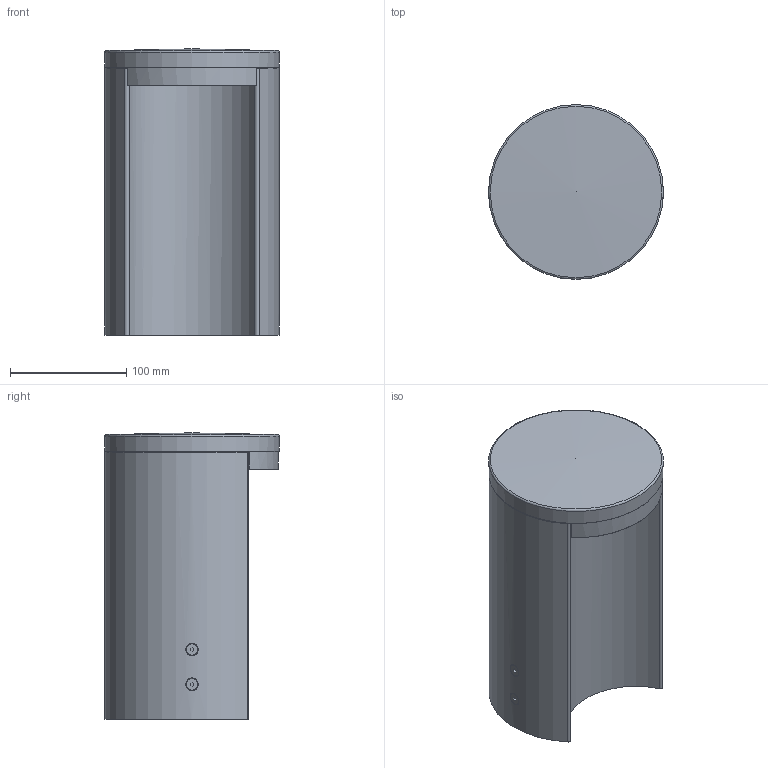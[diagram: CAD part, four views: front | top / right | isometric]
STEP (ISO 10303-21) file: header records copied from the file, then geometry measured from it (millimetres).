
FILE_DESCRIPTION(/* description */ ('Unknown'),/* implementation_level */ '2;1');
FILE_NAME(/* name */ 'RYO MONO SMALL',/* time_stamp */ '2023-01-17T10:28:41+01:00',/* author */ ('Unknown'),/* organization */ ('Unknown'),/* preprocessor_version */ 'ST-DEVELOPER v18.1',/* originating_system */ 'Solid Edge',/* authorisation */ 'Unknown');
FILE_SCHEMA (('AUTOMOTIVE_DESIGN {1 0 10303 214 3 1 1}'));
Length unit declared in the file: millimetre
Products named in the file (1): E64761_Semplifica
Bounding box: 150.46 x 150.46 x 246.5 mm (x, y, z)
Volume: 565986.5 mm3; surface area: 333957.4 mm2
Topology: 6 solids, 6 shells, 932 faces, 2156 edges, 1190 vertices
Faces by surface type: cylinder 322, torus 192, plane 177, sphere 87, bspline 85, cone 69
Full cylindrical faces by diameter (mm): 2.459 x4, 2.5 x4, 3 x4, 3.242 x2, 3.5 x4, 4.917 x2, 5 x4, 5.5 x4, 7 x7, 30 x1
Entity records: 32127 total; most frequent: CARTESIAN_POINT 5685, DIRECTION 4629, ORIENTED_EDGE 3944, AXIS2_PLACEMENT_3D 1976, EDGE_CURVE 1972, VERTEX_POINT 1159, CIRCLE 1087, EDGE_LOOP 1075
